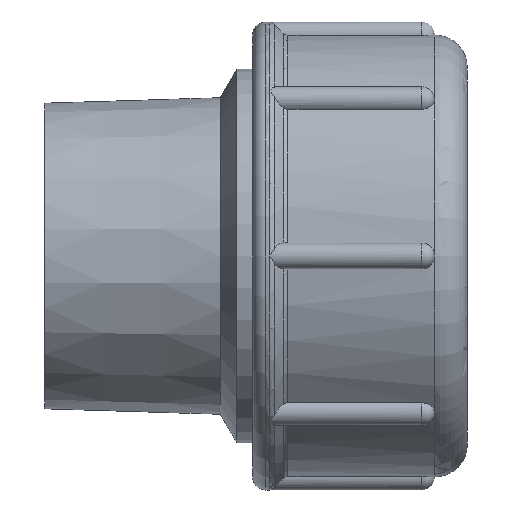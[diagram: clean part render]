
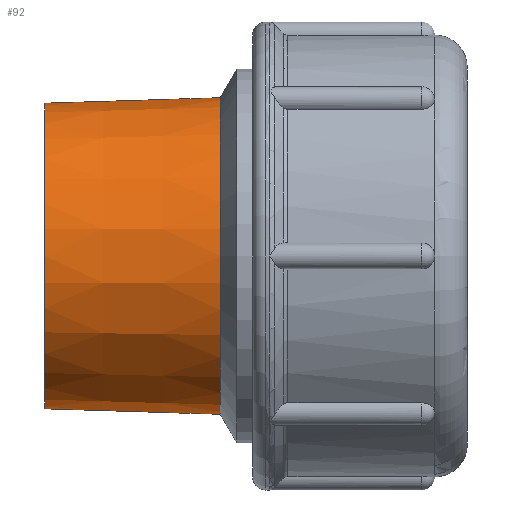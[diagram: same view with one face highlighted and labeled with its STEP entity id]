
A CAD part, front view. The second image highlights one B-rep face of the part: STEP entity #92.
In plain terms, the highlighted conical face has half-angle 1.788 degrees and reference radius 24.348 mm.
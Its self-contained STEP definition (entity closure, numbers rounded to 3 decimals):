
#92 = ADVANCED_FACE( '', ( #245, #246 ), #247, .T. );
#245 = FACE_BOUND( '', #476, .T. );
#246 = FACE_OUTER_BOUND( '', #477, .T. );
#247 = CONICAL_SURFACE( '', #478, 24.348, 0.031 );
#476 = EDGE_LOOP( '', ( #701 ) );
#477 = EDGE_LOOP( '', ( #702 ) );
#478 = AXIS2_PLACEMENT_3D( '', #703, #704, #705 );
#701 = ORIENTED_EDGE( '', *, *, #1267, .T. );
#702 = ORIENTED_EDGE( '', *, *, #1268, .F. );
#703 = CARTESIAN_POINT( '', ( 27., 0., 0. ) );
#704 = DIRECTION( '', ( 1., 0., 0. ) );
#705 = DIRECTION( '', ( 0., 0., -1. ) );
#1267 = EDGE_CURVE( '', #1482, #1482, #1483, .T. );
#1268 = EDGE_CURVE( '', #1484, #1484, #1485, .T. );
#1482 = VERTEX_POINT( '', #1796 );
#1483 = CIRCLE( '', #1797, 23.505 );
#1484 = VERTEX_POINT( '', #1798 );
#1485 = CIRCLE( '', #1799, 24.348 );
#1796 = CARTESIAN_POINT( '', ( 0., 0., -23.505 ) );
#1797 = AXIS2_PLACEMENT_3D( '', #2693, #2694, #2695 );
#1798 = CARTESIAN_POINT( '', ( 27., 0., -24.348 ) );
#1799 = AXIS2_PLACEMENT_3D( '', #2696, #2697, #2698 );
#2693 = CARTESIAN_POINT( '', ( 0., 0., 0. ) );
#2694 = DIRECTION( '', ( 1., 0., 0. ) );
#2695 = DIRECTION( '', ( 0., 0., -1. ) );
#2696 = CARTESIAN_POINT( '', ( 27., 0., 0. ) );
#2697 = DIRECTION( '', ( 1., 0., 0. ) );
#2698 = DIRECTION( '', ( 0., 0., -1. ) );
